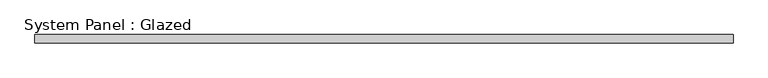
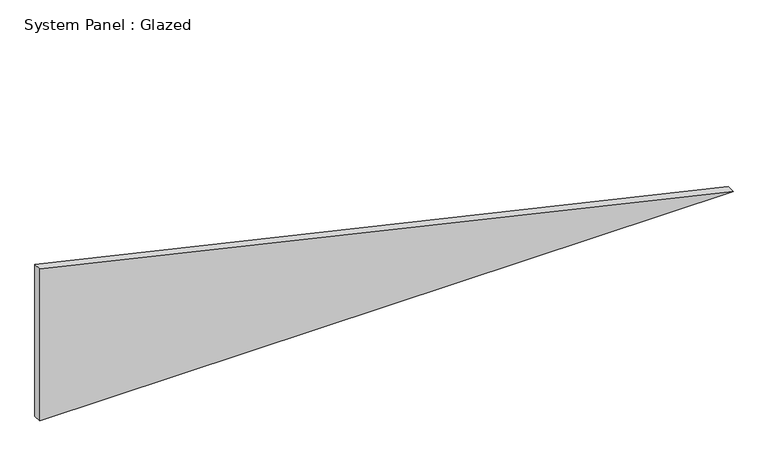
"""IFC4 building model written with IfcOpenShell, lengths in millimetres: plate geometry, System Panel : Glazed."""

from ifc_helpers import new_model, si_unit, frame, origin, place, context, project, spatial, polyline, outline, extrude, source, transform, mapped, element, save


def system_panel_glazed_b0595651(model_context):
    return source(origin(), model_context, "Body", "SweptSolid", [
        extrude(outline(polyline([(0.0, -1052.5795998), (0.0, 1052.5795998), (488.0484467, -1052.5795998), (0.0, -1052.5795998)])), frame((0.0, 19.05, 0.0), z_axis=(0.0, 1.0, 0.0), x_axis=(0.0, 0.0, 1.0)), (0.0, 0.0, 1.0), 25.4),
    ])


if __name__ == "__main__":
    model = new_model("IFC4")
    model_context = context("Model", 3, world=origin())
    ifc_project = project(units=[si_unit("LENGTHUNIT", "METRE", prefix="MILLI")], contexts=[model_context])
    site = spatial("IfcSite", under=ifc_project)
    building = spatial("IfcBuilding", under=site)
    placement = place(None, origin())
    system_panel_glazed_shape = system_panel_glazed_b0595651(model_context)
    element("IfcPlate", 1, ObjectType="System Panel : Glazed", at=placement, inside=building, context=model_context, shape_type="MappedRepresentation", body=[
        mapped(system_panel_glazed_shape, transform((0.0, 0.0, 0.0), x_axis=(1.0, 0.0, 0.0), y_axis=(0.0, 1.0, 0.0), z_axis=(0.0, 0.0, 1.0))),
    ])
    save(model, "model.ifc")
